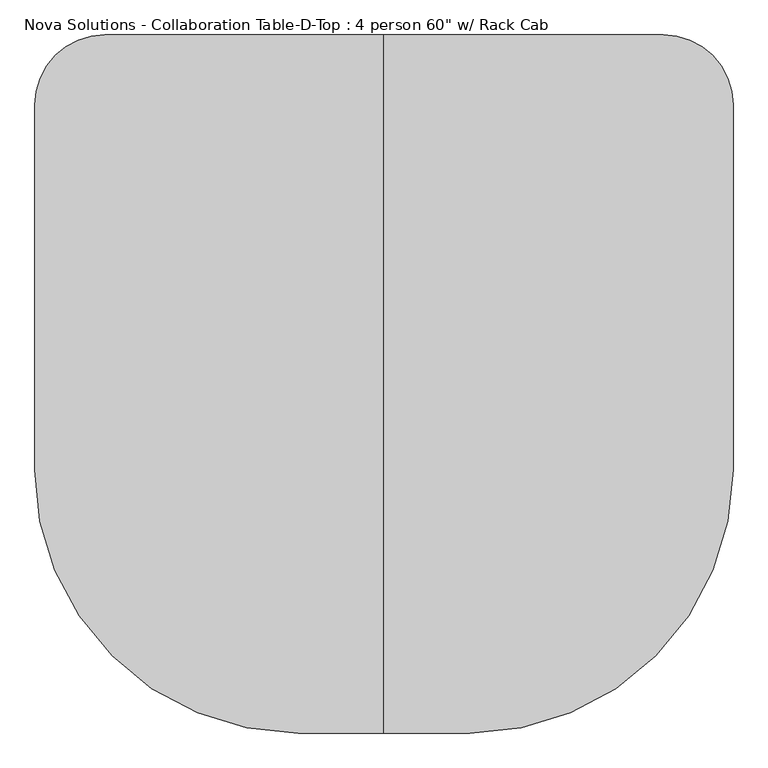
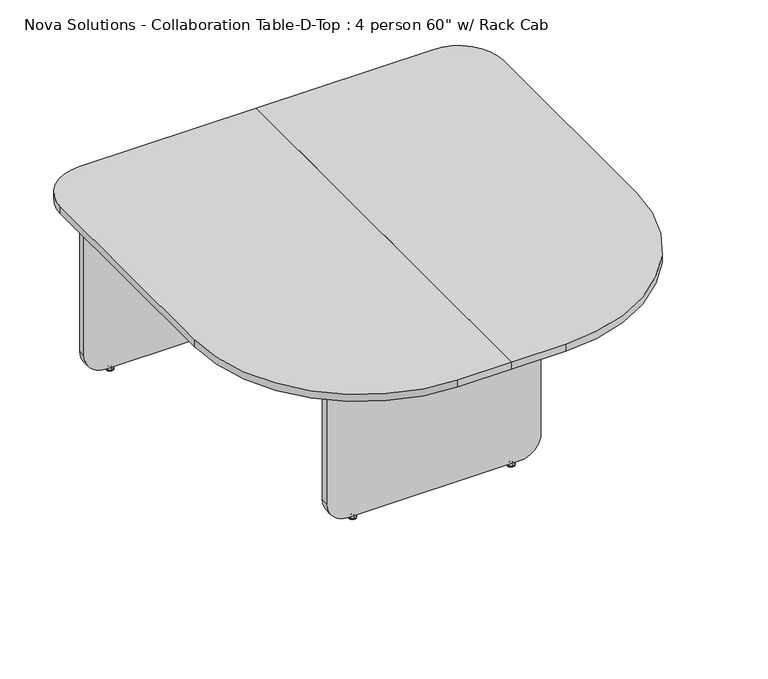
"""IFC4 building model written with IfcOpenShell, lengths in millimetres: furniture geometry."""

import ifcopenshell
import ifcopenshell.guid

model = None  # the IFC model being written
_history = None  # IfcOwnerHistory: only IFC2X3 demands one
_inside = {}  # id of a spatial element -> (the spatial element, [elements in it])
_under = {}  # id of a project, library or spatial element -> (it, [spatial elements below it])
_declared = {}  # id of a project -> (the project, [libraries it declares])
_typed = {}  # id of a type object -> (the type object, [elements of that type])
_made_of = {}  # id of a material, layer set ... -> (it, [elements and type objects made of it])


def new_model(schema):
    """Start an empty IFC model of exactly this schema.

    Asked for "IFC4X3", IfcOpenShell would pick the latest addendum, in which some entities
    have other attributes; the version numbers below select the first issue.
    IFC2X3 requires an IfcOwnerHistory on every rooted entity: one is made here for all.
    """
    global model, _history
    if schema == "IFC4X3":
        model = ifcopenshell.file(schema_version=(4, 3, 0, 0))
    else:
        model = ifcopenshell.file(schema=schema)
    _inside.clear()
    _under.clear()
    _declared.clear()
    _typed.clear()
    _made_of.clear()
    _history = None
    if model.schema == "IFC2X3":
        org = make("IfcOrganization", Name="unknown")
        user = make(
            "IfcPersonAndOrganization",
            ThePerson=make("IfcPerson", FamilyName="unknown"),
            TheOrganization=org,
        )
        app = make(
            "IfcApplication",
            ApplicationDeveloper=org,
            Version="unknown",
            ApplicationFullName="unknown",
            ApplicationIdentifier="unknown",
        )
        _history = make(
            "IfcOwnerHistory",
            OwningUser=user,
            OwningApplication=app,
            ChangeAction="ADDED",
            CreationDate=0,
        )
    return model


def make(cls, **values):
    """One entity of the class cls with the attributes given. An attribute that is None is left unset."""
    return model.create_entity(
        cls, **{name: value for name, value in values.items() if value is not None}
    )


def rooted(cls, **values):
    """An entity with a GlobalId (a new one), such as an element, a storey or a relation."""
    return make(cls, GlobalId=ifcopenshell.guid.new(), OwnerHistory=_history, **values)


def si_unit(unit_type, name, prefix=None):
    """IfcSIUnit, for example si_unit("LENGTHUNIT", "METRE", prefix="MILLI")."""
    return make("IfcSIUnit", UnitType=unit_type, Prefix=prefix, Name=name)


def assignment(units):
    """IfcUnitAssignment: the units of a project."""
    return None if units is None else make("IfcUnitAssignment", Units=units)


def point(xyz):
    """IfcCartesianPoint."""
    return None if xyz is None else make("IfcCartesianPoint", Coordinates=xyz)


def direction(xyz):
    """IfcDirection."""
    return None if xyz is None else make("IfcDirection", DirectionRatios=xyz)


def frame(location, z_axis=None, x_axis=None):
    """IfcAxis2Placement3D, a coordinate frame: its origin and axes. An axis left out is left unset."""
    return make(
        "IfcAxis2Placement3D",
        Location=point(location),
        Axis=direction(z_axis),
        RefDirection=direction(x_axis),
    )


def frame_2d(location, x_axis=None):
    """IfcAxis2Placement2D, a coordinate frame in the plane: its origin and x axis."""
    return make(
        "IfcAxis2Placement2D", Location=point(location), RefDirection=direction(x_axis)
    )


def origin():
    """The frame at (0, 0, 0) with its axes left unset."""
    return frame((0.0, 0.0, 0.0))


def place(relative_to, where):
    """IfcLocalPlacement: puts the frame where relative to a parent placement (None: the world)."""
    return make(
        "IfcLocalPlacement", PlacementRelTo=relative_to, RelativePlacement=where
    )


def context(
    kind, dimensions, precision=None, world=None, true_north=None, identifier=None
):
    """IfcGeometricRepresentationContext, for example the 3D "Model" context."""
    return make(
        "IfcGeometricRepresentationContext",
        ContextIdentifier=identifier,
        ContextType=kind,
        CoordinateSpaceDimension=dimensions,
        Precision=precision,
        WorldCoordinateSystem=world,
        TrueNorth=true_north,
    )


def project(units=None, contexts=None):
    """IfcProject with its units and contexts."""
    return rooted(
        "IfcProject",
        Name="project",
        RepresentationContexts=contexts,
        UnitsInContext=assignment(units),
    )


def spatial(cls, under=None, at=None, **own):
    """A site, building, storey or space (cls), placed at a placement, below another one or the project."""
    s = rooted(cls, ObjectPlacement=at, **own)
    if under is not None:
        _under.setdefault(under.id(), (under, []))[1].append(s)
    return s


def polyline(points):
    """IfcPolyline through the points."""
    return make("IfcPolyline", Points=[point(p) for p in points])


def circle_curve(where, radius):
    """IfcCircle in the frame where."""
    return make("IfcCircle", Position=where, Radius=radius)


def ellipse_curve(where, semi_axis1, semi_axis2):
    """IfcEllipse in the frame where."""
    return make(
        "IfcEllipse", Position=where, SemiAxis1=semi_axis1, SemiAxis2=semi_axis2
    )


def trimmed(basis, trim1, trim2, sense, master):
    """IfcTrimmedCurve: the piece of a basis curve between two trims."""
    return make(
        "IfcTrimmedCurve",
        BasisCurve=basis,
        Trim1=trim1,
        Trim2=trim2,
        SenseAgreement=sense,
        MasterRepresentation=master,
    )


def segment(curve, same_sense, transition):
    """IfcCompositeCurveSegment."""
    return make(
        "IfcCompositeCurveSegment",
        Transition=transition,
        SameSense=same_sense,
        ParentCurve=curve,
    )


def composite_curve(segments, self_intersect=None):
    """IfcCompositeCurve: segments joined end to end."""
    return make("IfcCompositeCurve", Segments=segments, SelfIntersect=self_intersect)


def outline(outer, holes=None, kind="AREA"):
    """IfcArbitraryClosedProfileDef: a profile drawn as a closed curve; with holes, ...WithVoids."""
    if holes is None:
        return make("IfcArbitraryClosedProfileDef", ProfileType=kind, OuterCurve=outer)
    return make(
        "IfcArbitraryProfileDefWithVoids",
        ProfileType=kind,
        OuterCurve=outer,
        InnerCurves=holes,
    )


def extrude(swept, where, along, depth):
    """IfcExtrudedAreaSolid: the profile swept, set in the frame where, extruded along a direction by depth."""
    return make(
        "IfcExtrudedAreaSolid",
        SweptArea=swept,
        Position=where,
        ExtrudedDirection=direction(along),
        Depth=depth,
    )


def shape(context_of_items, identifier, shape_type, items):
    """IfcShapeRepresentation: the items that make up one representation, for example the "Body"."""
    return make(
        "IfcShapeRepresentation",
        ContextOfItems=context_of_items,
        RepresentationIdentifier=identifier,
        RepresentationType=shape_type,
        Items=items,
    )


def source(mapping_origin, context_of_items, identifier, shape_type, items):
    """IfcRepresentationMap: a shape defined once, which mapped items show again and again."""
    return make(
        "IfcRepresentationMap",
        MappingOrigin=mapping_origin,
        MappedRepresentation=shape(context_of_items, identifier, shape_type, items),
    )


def transform(
    local_origin,
    x_axis=None,
    y_axis=None,
    z_axis=None,
    scale=None,
    scale2=None,
    scale3=None,
    uniform=True,
):
    """IfcCartesianTransformationOperator3D, or its non-uniform kind. x_axis, y_axis, z_axis: its Axis1, 2, 3."""
    if uniform:
        return make(
            "IfcCartesianTransformationOperator3D",
            Axis1=direction(x_axis),
            Axis2=direction(y_axis),
            LocalOrigin=point(local_origin),
            Scale=scale,
            Axis3=direction(z_axis),
        )
    return make(
        "IfcCartesianTransformationOperator3DnonUniform",
        Axis1=direction(x_axis),
        Axis2=direction(y_axis),
        LocalOrigin=point(local_origin),
        Scale=scale,
        Axis3=direction(z_axis),
        Scale2=scale2,
        Scale3=scale3,
    )


def mapped(mapping_source, mapping_target):
    """IfcMappedItem: shows the shape of a source again, moved by a transform."""
    return make(
        "IfcMappedItem", MappingSource=mapping_source, MappingTarget=mapping_target
    )


def made_of(thing, what):
    """Note that an element or type object is made of a material, layer set ...; save() writes the relation."""
    if what is not None:
        _made_of.setdefault(what.id(), (what, []))[1].append(thing)
    return thing


def element(
    cls,
    number,
    at=None,
    inside=None,
    cuts=None,
    type_object=None,
    material=None,
    context=None,
    identifier="Body",
    shape_type=None,
    held_by="IfcProductDefinitionShape",
    body=None,
    shapes=None,
    **own,
):
    """One element of the class cls, such as IfcWall. Its Tag is "e" and its number.

    at: its placement. inside: the storey or other place that contains it. cuts: it is an
    opening in that element (IfcRelVoidsElement). A single representation is given by context,
    identifier, shape_type and body (its items); several are given by shapes. held_by: the class
    of the entity that holds the representations. save() writes the other relations.
    """
    e = rooted(cls, Tag="e%d" % number, ObjectPlacement=at, **own)
    if body is not None:
        shapes = [shape(context, identifier, shape_type, body)]
    if shapes is not None:
        e.Representation = make(held_by, Representations=shapes)
    if inside is not None:
        _inside.setdefault(inside.id(), (inside, []))[1].append(e)
    if cuts is not None:
        rooted(
            "IfcRelVoidsElement", RelatingBuildingElement=cuts, RelatedOpeningElement=e
        )
    if type_object is not None:
        _typed.setdefault(type_object.id(), (type_object, []))[1].append(e)
    return made_of(e, material)


def aggregate(whole, parts):
    """IfcRelAggregates: a whole, such as a stair, and the parts it consists of."""
    return rooted("IfcRelAggregates", RelatingObject=whole, RelatedObjects=parts)


def save(model, path):
    """Write the relations noted so far, then the file.

    IfcRelAggregates (storeys below a building ...), IfcRelContainedInSpatialStructure (elements
    in a storey), IfcRelDefinesByType, IfcRelAssociatesMaterial and IfcRelDeclares: one each for
    every whole, place, type object, material and project.
    """
    for whole, parts in _under.values():
        aggregate(whole, parts)
    for where, things in _inside.values():
        rooted(
            "IfcRelContainedInSpatialStructure",
            RelatedElements=things,
            RelatingStructure=where,
        )
    for kind, things in _typed.values():
        rooted("IfcRelDefinesByType", RelatedObjects=things, RelatingType=kind)
    for what, things in _made_of.values():
        rooted("IfcRelAssociatesMaterial", RelatedObjects=things, RelatingMaterial=what)
    for by, libraries in _declared.values():
        rooted("IfcRelDeclares", RelatingContext=by, RelatedDefinitions=libraries)
    model.write(path)


def plane_surface(at):
    """IfcPlane: the flat surface through the origin of the frame at, square to its z axis."""
    return make("IfcPlane", Position=at)


def cylinder_surface(at, radius):
    """IfcCylindricalSurface: all points at the distance radius from the z axis of the frame at."""
    return make("IfcCylindricalSurface", Position=at, Radius=radius)


def revolved_surface(curve, axis_point, axis_direction):
    """IfcSurfaceOfRevolution: the curve turned about the line through axis_point along axis_direction."""
    return make(
        "IfcSurfaceOfRevolution",
        SweptCurve=make("IfcArbitraryOpenProfileDef", ProfileType="CURVE", Curve=curve),
        AxisPosition=make("IfcAxis1Placement", Location=point(axis_point), Axis=direction(axis_direction)),
    )


def advanced_brep(points, edges, surfaces, faces):
    """IfcAdvancedBrep: a solid bounded by faces that lie on surfaces and meet in shared edges.

    An edge is (start, end): straight between two places in points (the first is 0);
    or (start, end, curve); or (start, end, curve, False) where it runs against its curve.
    A face is (place in surfaces, loops), or (place, loops, False) where it looks against
    its surface's normal. A loop lists edges by number (the first is 1), with a minus sign
    where the edge is run from its end to its start. The first loop is the outer one.
    """
    corners = [point(p) for p in points]
    vertices = [make("IfcVertexPoint", VertexGeometry=c) for c in corners]
    made = []
    for start, end, *more in edges:
        made.append(
            make(
                "IfcEdgeCurve",
                EdgeStart=vertices[start],
                EdgeEnd=vertices[end],
                EdgeGeometry=more[0] if more else make("IfcPolyline", Points=[corners[start], corners[end]]),
                SameSense=more[1] if len(more) > 1 else True,
            )
        )
    hull = []
    for where, loops, *sense in faces:
        bounds = []
        for j, loop in enumerate(loops):
            ring = [make("IfcOrientedEdge", EdgeElement=made[abs(k) - 1], Orientation=k > 0) for k in loop]
            bounds.append(
                make(
                    "IfcFaceOuterBound" if j == 0 else "IfcFaceBound",
                    Bound=make("IfcEdgeLoop", EdgeList=ring),
                    Orientation=True,
                )
            )
        hull.append(make("IfcAdvancedFace", Bounds=bounds, FaceSurface=surfaces[where], SameSense=sense[0] if sense else True))
    return make("IfcAdvancedBrep", Outer=make("IfcClosedShell", CfsFaces=hull))


def furniture_7cc7d4da(model_context):
    return source(origin(), model_context, "Body", "SolidModel", [
        extrude(outline(polyline([(-261.75, 733.4), (-245.55, 733.4), (-245.55, 206.0), (-261.75, 206.0), (-261.75, 733.4)])), frame((0.0, 0.0, 181.85), z_axis=(0.0, 0.0, 1.0), x_axis=(1.0, 0.0, 0.0)), (0.0, 0.0, 1.0), 553.0),
        extrude(outline(polyline([(245.55, 733.4), (261.75, 733.4), (261.75, 206.0), (245.55, 206.0), (245.55, 733.4)])), frame((0.0, 0.0, 181.85), z_axis=(0.0, 0.0, 1.0), x_axis=(1.0, 0.0, 0.0)), (0.0, 0.0, 1.0), 553.0),
        extrude(outline(polyline([(-136.57, 180.3), (-136.57, -271.3), (-152.77, -271.3), (-152.77, 180.3), (-136.57, 180.3)])), frame((0.0, 0.0, 181.85), z_axis=(0.0, 0.0, 1.0), x_axis=(1.0, 0.0, 0.0)), (0.0, 0.0, 1.0), 553.0),
        extrude(outline(polyline([(136.57, 180.3), (152.77, 180.3), (152.77, -271.3), (136.57, -271.3), (136.57, 180.3)])), frame((0.0, 0.0, 181.85), z_axis=(0.0, 0.0, 1.0), x_axis=(1.0, 0.0, 0.0)), (0.0, 0.0, 1.0), 553.0),
        advanced_brep(
        [(513.4578125, 752.9276506, 11.1125), (513.4578125, 739.5723494, 11.1125), (513.4578125, 746.25, 11.1125), (513.4578125, 752.9276506, 9.525), (513.4578125, 739.5723494, 9.525), (513.4578125, 758.1355135, 4.7748687), (513.4578125, 734.3644865, 4.7748687), (513.4578125, 758.9966506, 3.989419), (513.4578125, 733.5033494, 3.989419), (513.4578125, 758.9966506, 3.175), (513.4578125, 733.5033494, 3.175), (513.4578125, 758.1459119, 0.0), (513.4578125, 734.3540881, 0.0), (513.4578125, 746.25, 0.0)],
        [
            (0, 1, circle_curve(frame((513.4578125, 746.25, 11.1125), z_axis=(0.0, 0.0, 1.0), x_axis=(0.0, -1.0, 0.0)), 6.6776506)),
            (1, 2),
            (2, 0),
            (1, 0, circle_curve(frame((513.4578125, 746.25, 11.1125), z_axis=(0.0, 0.0, 1.0), x_axis=(0.0, -1.0, 0.0)), 6.6776506)),
            (3, 4, circle_curve(frame((513.4578125, 746.25, 9.525), z_axis=(0.0, 0.0, 1.0), x_axis=(0.0, -1.0, 0.0)), 6.6776506)),
            (4, 1),
            (0, 3),
            (4, 3, circle_curve(frame((513.4578125, 746.25, 9.525), z_axis=(0.0, 0.0, 1.0), x_axis=(0.0, -1.0, 0.0)), 6.6776506)),
            (5, 6, circle_curve(frame((513.4578125, 746.25, 4.7748687), z_axis=(0.0, 0.0, 1.0), x_axis=(0.0, -1.0, 0.0)), 11.8855135)),
            (6, 4, circle_curve(frame((513.4578125, 733.3179373, 11.1521822), z_axis=(1.0, 0.0, 0.0), x_axis=(0.0, 1.0, 0.0)), 6.462615)),
            (3, 5, circle_curve(frame((513.4578125, 759.1820627, 11.1521822), z_axis=(1.0, 0.0, 0.0), x_axis=(0.0, -1.0, 0.0)), 6.462615)),
            (6, 5, circle_curve(frame((513.4578125, 746.25, 4.7748687), z_axis=(0.0, 0.0, 1.0), x_axis=(0.0, -1.0, 0.0)), 11.8855135)),
            (7, 8, circle_curve(frame((513.4578125, 746.25, 3.989419), z_axis=(0.0, 0.0, 1.0), x_axis=(0.0, -1.0, 0.0)), 12.7466506)),
            (8, 6, circle_curve(frame((513.4578125, 734.5375368, 3.7203591), z_axis=(-1.0, 0.0, 0.0), x_axis=(0.0, 1.0, 0.0)), 1.0686145)),
            (5, 7, circle_curve(frame((513.4578125, 757.9624632, 3.7203591), z_axis=(-1.0, 0.0, 0.0), x_axis=(0.0, -1.0, 0.0)), 1.0686145)),
            (8, 7, circle_curve(frame((513.4578125, 746.25, 3.989419), z_axis=(0.0, 0.0, 1.0), x_axis=(0.0, -1.0, 0.0)), 12.7466506)),
            (9, 10, circle_curve(frame((513.4578125, 746.25, 3.175), z_axis=(0.0, 0.0, 1.0), x_axis=(0.0, -1.0, 0.0)), 12.7466506)),
            (10, 8),
            (7, 9),
            (10, 9, circle_curve(frame((513.4578125, 746.25, 3.175), z_axis=(0.0, 0.0, 1.0), x_axis=(0.0, -1.0, 0.0)), 12.7466506)),
            (11, 12, circle_curve(frame((513.4578125, 746.25, 0.0), z_axis=(0.0, 0.0, 1.0), x_axis=(0.0, -1.0, 0.0)), 11.8959119)),
            (12, 10),
            (9, 11),
            (12, 11, circle_curve(frame((513.4578125, 746.25, 0.0), z_axis=(0.0, 0.0, 1.0), x_axis=(0.0, -1.0, 0.0)), 11.8959119)),
            (13, 12),
            (11, 13),
        ],
        [
            plane_surface(frame((513.4578125, 746.25, 11.1125), z_axis=(0.0, 0.0, 1.0), x_axis=(0.0, -1.0, 0.0))),
            cylinder_surface(frame((513.4578125, 746.25, 43.2095994), z_axis=(0.0, 0.0, -1.0), x_axis=(0.0, -1.0, 0.0)), 6.6776506),
            revolved_surface(trimmed(ellipse_curve(frame((513.4578125, 733.3179373, 11.1521822), z_axis=(-1.0, 0.0, 0.0), x_axis=(0.0, 1.0, 0.0)), 6.462615, 6.462615), [point((513.4578125, 739.5723494, 9.525))], [point((513.4578125, 734.3644865, 4.7748687))], True, "CARTESIAN"), (513.4578125, 746.25, 43.2095994), (0.0, 0.0, -1.0)),
            revolved_surface(trimmed(ellipse_curve(frame((513.4578125, 734.5375368, 3.7203591), z_axis=(1.0, 0.0, 0.0), x_axis=(0.0, 1.0, 0.0)), 1.0686145, 1.0686145), [point((513.4578125, 734.3644865, 4.7748687))], [point((513.4578125, 733.5033494, 3.989419))], True, "CARTESIAN"), (513.4578125, 746.25, 43.2095994), (0.0, 0.0, -1.0)),
            cylinder_surface(frame((513.4578125, 746.25, 43.2095994), z_axis=(0.0, 0.0, -1.0), x_axis=(0.0, -1.0, 0.0)), 12.7466506),
            revolved_surface(polyline([(513.4578125, 733.5033494, 3.175), (513.4578125, 734.3540881, 0.0)]), (513.4578125, 746.25, 43.2095994), (0.0, 0.0, -1.0)),
            plane_surface(frame((513.4578125, 746.25, 0.0), z_axis=(0.0, 0.0, -1.0), x_axis=(0.0, -1.0, 0.0))),
        ],
        [
            (0, [[1, 2, 3]]),
            (0, [[4, -3, -2]]),
            (1, [[5, 6, -1, 7]]),
            (1, [[8, -7, -4, -6]]),
            (2, [[9, 10, -5, 11]]),
            (2, [[12, -11, -8, -10]]),
            (3, [[13, 14, -9, 15]]),
            (3, [[16, -15, -12, -14]]),
            (4, [[17, 18, -13, 19]]),
            (4, [[20, -19, -16, -18]]),
            (5, [[21, 22, -17, 23]]),
            (5, [[24, -23, -20, -22]]),
            (6, [[25, -21, 26]]),
            (6, [[-26, -24, -25]]),
        ],
    ),
        advanced_brep(
        [(-513.4578125, 752.9276506, 11.1125), (-513.4578125, 739.5723494, 11.1125), (-513.4578125, 746.25, 11.1125), (-513.4578125, 752.9276506, 9.525), (-513.4578125, 739.5723494, 9.525), (-513.4578125, 758.1355135, 4.7748687), (-513.4578125, 734.3644865, 4.7748687), (-513.4578125, 758.9966506, 3.989419), (-513.4578125, 733.5033494, 3.989419), (-513.4578125, 758.9966506, 3.175), (-513.4578125, 733.5033494, 3.175), (-513.4578125, 758.1459119, 0.0), (-513.4578125, 734.3540881, 0.0), (-513.4578125, 746.25, 0.0)],
        [
            (0, 1, circle_curve(frame((-513.4578125, 746.25, 11.1125), z_axis=(0.0, 0.0, 1.0), x_axis=(0.0, -1.0, 0.0)), 6.6776506)),
            (1, 2),
            (2, 0),
            (1, 0, circle_curve(frame((-513.4578125, 746.25, 11.1125), z_axis=(0.0, 0.0, 1.0), x_axis=(0.0, -1.0, 0.0)), 6.6776506)),
            (3, 4, circle_curve(frame((-513.4578125, 746.25, 9.525), z_axis=(0.0, 0.0, 1.0), x_axis=(0.0, -1.0, 0.0)), 6.6776506)),
            (4, 1),
            (0, 3),
            (4, 3, circle_curve(frame((-513.4578125, 746.25, 9.525), z_axis=(0.0, 0.0, 1.0), x_axis=(0.0, -1.0, 0.0)), 6.6776506)),
            (5, 6, circle_curve(frame((-513.4578125, 746.25, 4.7748687), z_axis=(0.0, 0.0, 1.0), x_axis=(0.0, -1.0, 0.0)), 11.8855135)),
            (6, 4, circle_curve(frame((-513.4578125, 733.3179373, 11.1521822), z_axis=(1.0, 0.0, 0.0), x_axis=(0.0, 1.0, 0.0)), 6.462615)),
            (3, 5, circle_curve(frame((-513.4578125, 759.1820627, 11.1521822), z_axis=(1.0, 0.0, 0.0), x_axis=(0.0, -1.0, 0.0)), 6.462615)),
            (6, 5, circle_curve(frame((-513.4578125, 746.25, 4.7748687), z_axis=(0.0, 0.0, 1.0), x_axis=(0.0, -1.0, 0.0)), 11.8855135)),
            (7, 8, circle_curve(frame((-513.4578125, 746.25, 3.989419), z_axis=(0.0, 0.0, 1.0), x_axis=(0.0, -1.0, 0.0)), 12.7466506)),
            (8, 6, circle_curve(frame((-513.4578125, 734.5375368, 3.7203591), z_axis=(-1.0, 0.0, 0.0), x_axis=(0.0, 1.0, 0.0)), 1.0686145)),
            (5, 7, circle_curve(frame((-513.4578125, 757.9624632, 3.7203591), z_axis=(-1.0, 0.0, 0.0), x_axis=(0.0, -1.0, 0.0)), 1.0686145)),
            (8, 7, circle_curve(frame((-513.4578125, 746.25, 3.989419), z_axis=(0.0, 0.0, 1.0), x_axis=(0.0, -1.0, 0.0)), 12.7466506)),
            (9, 10, circle_curve(frame((-513.4578125, 746.25, 3.175), z_axis=(0.0, 0.0, 1.0), x_axis=(0.0, -1.0, 0.0)), 12.7466506)),
            (10, 8),
            (7, 9),
            (10, 9, circle_curve(frame((-513.4578125, 746.25, 3.175), z_axis=(0.0, 0.0, 1.0), x_axis=(0.0, -1.0, 0.0)), 12.7466506)),
            (11, 12, circle_curve(frame((-513.4578125, 746.25, 0.0), z_axis=(0.0, 0.0, 1.0), x_axis=(0.0, -1.0, 0.0)), 11.8959119)),
            (12, 10),
            (9, 11),
            (12, 11, circle_curve(frame((-513.4578125, 746.25, 0.0), z_axis=(0.0, 0.0, 1.0), x_axis=(0.0, -1.0, 0.0)), 11.8959119)),
            (13, 12),
            (11, 13),
        ],
        [
            plane_surface(frame((-513.4578125, 746.25, 11.1125), z_axis=(0.0, 0.0, 1.0), x_axis=(0.0, -1.0, 0.0))),
            cylinder_surface(frame((-513.4578125, 746.25, 43.2095994), z_axis=(0.0, 0.0, -1.0), x_axis=(0.0, -1.0, 0.0)), 6.6776506),
            revolved_surface(trimmed(ellipse_curve(frame((-513.4578125, 733.3179373, 11.1521822), z_axis=(-1.0, 0.0, 0.0), x_axis=(0.0, 1.0, 0.0)), 6.462615, 6.462615), [point((-513.4578125, 739.5723494, 9.525))], [point((-513.4578125, 734.3644865, 4.7748687))], True, "CARTESIAN"), (-513.4578125, 746.25, 43.2095994), (0.0, 0.0, -1.0)),
            revolved_surface(trimmed(ellipse_curve(frame((-513.4578125, 734.5375368, 3.7203591), z_axis=(1.0, 0.0, 0.0), x_axis=(0.0, 1.0, 0.0)), 1.0686145, 1.0686145), [point((-513.4578125, 734.3644865, 4.7748687))], [point((-513.4578125, 733.5033494, 3.989419))], True, "CARTESIAN"), (-513.4578125, 746.25, 43.2095994), (0.0, 0.0, -1.0)),
            cylinder_surface(frame((-513.4578125, 746.25, 43.2095994), z_axis=(0.0, 0.0, -1.0), x_axis=(0.0, -1.0, 0.0)), 12.7466506),
            revolved_surface(polyline([(-513.4578125, 733.5033494, 3.175), (-513.4578125, 734.3540881, 0.0)]), (-513.4578125, 746.25, 43.2095994), (0.0, 0.0, -1.0)),
            plane_surface(frame((-513.4578125, 746.25, 0.0), z_axis=(0.0, 0.0, -1.0), x_axis=(0.0, -1.0, 0.0))),
        ],
        [
            (0, [[1, 2, 3]]),
            (0, [[4, -3, -2]]),
            (1, [[5, 6, -1, 7]]),
            (1, [[8, -7, -4, -6]]),
            (2, [[9, 10, -5, 11]]),
            (2, [[12, -11, -8, -10]]),
            (3, [[13, 14, -9, 15]]),
            (3, [[16, -15, -12, -14]]),
            (4, [[17, 18, -13, 19]]),
            (4, [[20, -19, -16, -18]]),
            (5, [[21, 22, -17, 23]]),
            (5, [[24, -23, -20, -22]]),
            (6, [[25, -21, 26]]),
            (6, [[-26, -24, -25]]),
        ],
    ),
        extrude(outline(composite_curve([segment(polyline([(734.85, 609.5), (734.85, -609.5), (90.15, -609.5)]), True, "CONTINUOUS"), segment(trimmed(circle_curve(frame_2d((90.15, -533.5)), 76.0), [point((90.15, -609.5))], [point((14.15, -533.5))], False, "CARTESIAN"), True, "CONTINUOUS"), segment(polyline([(14.15, -533.5), (14.15, 533.5)]), True, "CONTINUOUS"), segment(trimmed(circle_curve(frame_2d((90.15, 533.5)), 76.0), [point((14.15, 533.5))], [point((90.15, 609.5))], False, "CARTESIAN"), True, "CONTINUOUS"), segment(polyline([(90.15, 609.5), (734.85, 609.5)]), True, "CONTINUOUS")], self_intersect=False)), frame((0.0, 733.4, 0.0), z_axis=(0.0, 1.0, 0.0), x_axis=(0.0, 0.0, 1.0)), (0.0, 0.0, 1.0), 25.7),
        advanced_brep(
        [(272.9578125, -277.4723494, 11.1125), (272.9578125, -290.8276506, 11.1125), (272.9578125, -284.15, 11.1125), (272.9578125, -277.4723494, 9.525), (272.9578125, -290.8276506, 9.525), (272.9578125, -272.2644865, 4.7748687), (272.9578125, -296.0355135, 4.7748687), (272.9578125, -271.4033494, 3.989419), (272.9578125, -296.8966506, 3.989419), (272.9578125, -271.4033494, 3.175), (272.9578125, -296.8966506, 3.175), (272.9578125, -272.2540881, 0.0), (272.9578125, -296.0459119, 0.0), (272.9578125, -284.15, 0.0)],
        [
            (0, 1, circle_curve(frame((272.9578125, -284.15, 11.1125), z_axis=(0.0, 0.0, 1.0), x_axis=(0.0, -1.0, 0.0)), 6.6776506)),
            (1, 2),
            (2, 0),
            (1, 0, circle_curve(frame((272.9578125, -284.15, 11.1125), z_axis=(0.0, 0.0, 1.0), x_axis=(0.0, -1.0, 0.0)), 6.6776506)),
            (3, 4, circle_curve(frame((272.9578125, -284.15, 9.525), z_axis=(0.0, 0.0, 1.0), x_axis=(0.0, -1.0, 0.0)), 6.6776506)),
            (4, 1),
            (0, 3),
            (4, 3, circle_curve(frame((272.9578125, -284.15, 9.525), z_axis=(0.0, 0.0, 1.0), x_axis=(0.0, -1.0, 0.0)), 6.6776506)),
            (5, 6, circle_curve(frame((272.9578125, -284.15, 4.7748687), z_axis=(0.0, 0.0, 1.0), x_axis=(0.0, -1.0, 0.0)), 11.8855135)),
            (6, 4, circle_curve(frame((272.9578125, -297.0820627, 11.1521822), z_axis=(1.0, 0.0, 0.0), x_axis=(0.0, 1.0, 0.0)), 6.462615)),
            (3, 5, circle_curve(frame((272.9578125, -271.2179373, 11.1521822), z_axis=(1.0, 0.0, 0.0), x_axis=(0.0, -1.0, 0.0)), 6.462615)),
            (6, 5, circle_curve(frame((272.9578125, -284.15, 4.7748687), z_axis=(0.0, 0.0, 1.0), x_axis=(0.0, -1.0, 0.0)), 11.8855135)),
            (7, 8, circle_curve(frame((272.9578125, -284.15, 3.989419), z_axis=(0.0, 0.0, 1.0), x_axis=(0.0, -1.0, 0.0)), 12.7466506)),
            (8, 6, circle_curve(frame((272.9578125, -295.8624632, 3.7203591), z_axis=(-1.0, 0.0, 0.0), x_axis=(0.0, 1.0, 0.0)), 1.0686145)),
            (5, 7, circle_curve(frame((272.9578125, -272.4375368, 3.7203591), z_axis=(-1.0, 0.0, 0.0), x_axis=(0.0, -1.0, 0.0)), 1.0686145)),
            (8, 7, circle_curve(frame((272.9578125, -284.15, 3.989419), z_axis=(0.0, 0.0, 1.0), x_axis=(0.0, -1.0, 0.0)), 12.7466506)),
            (9, 10, circle_curve(frame((272.9578125, -284.15, 3.175), z_axis=(0.0, 0.0, 1.0), x_axis=(0.0, -1.0, 0.0)), 12.7466506)),
            (10, 8),
            (7, 9),
            (10, 9, circle_curve(frame((272.9578125, -284.15, 3.175), z_axis=(0.0, 0.0, 1.0), x_axis=(0.0, -1.0, 0.0)), 12.7466506)),
            (11, 12, circle_curve(frame((272.9578125, -284.15, 0.0), z_axis=(0.0, 0.0, 1.0), x_axis=(0.0, -1.0, 0.0)), 11.8959119)),
            (12, 10),
            (9, 11),
            (12, 11, circle_curve(frame((272.9578125, -284.15, 0.0), z_axis=(0.0, 0.0, 1.0), x_axis=(0.0, -1.0, 0.0)), 11.8959119)),
            (13, 12),
            (11, 13),
        ],
        [
            plane_surface(frame((272.9578125, -284.15, 11.1125), z_axis=(0.0, 0.0, 1.0), x_axis=(0.0, -1.0, 0.0))),
            cylinder_surface(frame((272.9578125, -284.15, 43.2095994), z_axis=(0.0, 0.0, -1.0), x_axis=(0.0, -1.0, 0.0)), 6.6776506),
            revolved_surface(trimmed(ellipse_curve(frame((272.9578125, -297.0820627, 11.1521822), z_axis=(-1.0, 0.0, 0.0), x_axis=(0.0, 1.0, 0.0)), 6.462615, 6.462615), [point((272.9578125, -290.8276506, 9.525))], [point((272.9578125, -296.0355135, 4.7748687))], True, "CARTESIAN"), (272.9578125, -284.15, 43.2095994), (0.0, 0.0, -1.0)),
            revolved_surface(trimmed(ellipse_curve(frame((272.9578125, -295.8624632, 3.7203591), z_axis=(1.0, 0.0, 0.0), x_axis=(0.0, 1.0, 0.0)), 1.0686145, 1.0686145), [point((272.9578125, -296.0355135, 4.7748687))], [point((272.9578125, -296.8966506, 3.989419))], True, "CARTESIAN"), (272.9578125, -284.15, 43.2095994), (0.0, 0.0, -1.0)),
            cylinder_surface(frame((272.9578125, -284.15, 43.2095994), z_axis=(0.0, 0.0, -1.0), x_axis=(0.0, -1.0, 0.0)), 12.7466506),
            revolved_surface(polyline([(272.9578125, -296.8966506, 3.175), (272.9578125, -296.0459119, 0.0)]), (272.9578125, -284.15, 43.2095994), (0.0, 0.0, -1.0)),
            plane_surface(frame((272.9578125, -284.15, 0.0), z_axis=(0.0, 0.0, -1.0), x_axis=(0.0, -1.0, 0.0))),
        ],
        [
            (0, [[1, 2, 3]]),
            (0, [[4, -3, -2]]),
            (1, [[5, 6, -1, 7]]),
            (1, [[8, -7, -4, -6]]),
            (2, [[9, 10, -5, 11]]),
            (2, [[12, -11, -8, -10]]),
            (3, [[13, 14, -9, 15]]),
            (3, [[16, -15, -12, -14]]),
            (4, [[17, 18, -13, 19]]),
            (4, [[20, -19, -16, -18]]),
            (5, [[21, 22, -17, 23]]),
            (5, [[24, -23, -20, -22]]),
            (6, [[25, -21, 26]]),
            (6, [[-26, -24, -25]]),
        ],
    ),
        advanced_brep(
        [(-272.9578125, -277.4723494, 11.1125), (-272.9578125, -290.8276506, 11.1125), (-272.9578125, -284.15, 11.1125), (-272.9578125, -277.4723494, 9.525), (-272.9578125, -290.8276506, 9.525), (-272.9578125, -272.2644865, 4.7748687), (-272.9578125, -296.0355135, 4.7748687), (-272.9578125, -271.4033494, 3.989419), (-272.9578125, -296.8966506, 3.989419), (-272.9578125, -271.4033494, 3.175), (-272.9578125, -296.8966506, 3.175), (-272.9578125, -272.2540881, 0.0), (-272.9578125, -296.0459119, 0.0), (-272.9578125, -284.15, 0.0)],
        [
            (0, 1, circle_curve(frame((-272.9578125, -284.15, 11.1125), z_axis=(0.0, 0.0, 1.0), x_axis=(0.0, -1.0, 0.0)), 6.6776506)),
            (1, 2),
            (2, 0),
            (1, 0, circle_curve(frame((-272.9578125, -284.15, 11.1125), z_axis=(0.0, 0.0, 1.0), x_axis=(0.0, -1.0, 0.0)), 6.6776506)),
            (3, 4, circle_curve(frame((-272.9578125, -284.15, 9.525), z_axis=(0.0, 0.0, 1.0), x_axis=(0.0, -1.0, 0.0)), 6.6776506)),
            (4, 1),
            (0, 3),
            (4, 3, circle_curve(frame((-272.9578125, -284.15, 9.525), z_axis=(0.0, 0.0, 1.0), x_axis=(0.0, -1.0, 0.0)), 6.6776506)),
            (5, 6, circle_curve(frame((-272.9578125, -284.15, 4.7748687), z_axis=(0.0, 0.0, 1.0), x_axis=(0.0, -1.0, 0.0)), 11.8855135)),
            (6, 4, circle_curve(frame((-272.9578125, -297.0820627, 11.1521822), z_axis=(1.0, 0.0, 0.0), x_axis=(0.0, 1.0, 0.0)), 6.462615)),
            (3, 5, circle_curve(frame((-272.9578125, -271.2179373, 11.1521822), z_axis=(1.0, 0.0, 0.0), x_axis=(0.0, -1.0, 0.0)), 6.462615)),
            (6, 5, circle_curve(frame((-272.9578125, -284.15, 4.7748687), z_axis=(0.0, 0.0, 1.0), x_axis=(0.0, -1.0, 0.0)), 11.8855135)),
            (7, 8, circle_curve(frame((-272.9578125, -284.15, 3.989419), z_axis=(0.0, 0.0, 1.0), x_axis=(0.0, -1.0, 0.0)), 12.7466506)),
            (8, 6, circle_curve(frame((-272.9578125, -295.8624632, 3.7203591), z_axis=(-1.0, 0.0, 0.0), x_axis=(0.0, 1.0, 0.0)), 1.0686145)),
            (5, 7, circle_curve(frame((-272.9578125, -272.4375368, 3.7203591), z_axis=(-1.0, 0.0, 0.0), x_axis=(0.0, -1.0, 0.0)), 1.0686145)),
            (8, 7, circle_curve(frame((-272.9578125, -284.15, 3.989419), z_axis=(0.0, 0.0, 1.0), x_axis=(0.0, -1.0, 0.0)), 12.7466506)),
            (9, 10, circle_curve(frame((-272.9578125, -284.15, 3.175), z_axis=(0.0, 0.0, 1.0), x_axis=(0.0, -1.0, 0.0)), 12.7466506)),
            (10, 8),
            (7, 9),
            (10, 9, circle_curve(frame((-272.9578125, -284.15, 3.175), z_axis=(0.0, 0.0, 1.0), x_axis=(0.0, -1.0, 0.0)), 12.7466506)),
            (11, 12, circle_curve(frame((-272.9578125, -284.15, 0.0), z_axis=(0.0, 0.0, 1.0), x_axis=(0.0, -1.0, 0.0)), 11.8959119)),
            (12, 10),
            (9, 11),
            (12, 11, circle_curve(frame((-272.9578125, -284.15, 0.0), z_axis=(0.0, 0.0, 1.0), x_axis=(0.0, -1.0, 0.0)), 11.8959119)),
            (13, 12),
            (11, 13),
        ],
        [
            plane_surface(frame((-272.9578125, -284.15, 11.1125), z_axis=(0.0, 0.0, 1.0), x_axis=(0.0, -1.0, 0.0))),
            cylinder_surface(frame((-272.9578125, -284.15, 43.2095994), z_axis=(0.0, 0.0, -1.0), x_axis=(0.0, -1.0, 0.0)), 6.6776506),
            revolved_surface(trimmed(ellipse_curve(frame((-272.9578125, -297.0820627, 11.1521822), z_axis=(-1.0, 0.0, 0.0), x_axis=(0.0, 1.0, 0.0)), 6.462615, 6.462615), [point((-272.9578125, -290.8276506, 9.525))], [point((-272.9578125, -296.0355135, 4.7748687))], True, "CARTESIAN"), (-272.9578125, -284.15, 43.2095994), (0.0, 0.0, -1.0)),
            revolved_surface(trimmed(ellipse_curve(frame((-272.9578125, -295.8624632, 3.7203591), z_axis=(1.0, 0.0, 0.0), x_axis=(0.0, 1.0, 0.0)), 1.0686145, 1.0686145), [point((-272.9578125, -296.0355135, 4.7748687))], [point((-272.9578125, -296.8966506, 3.989419))], True, "CARTESIAN"), (-272.9578125, -284.15, 43.2095994), (0.0, 0.0, -1.0)),
            cylinder_surface(frame((-272.9578125, -284.15, 43.2095994), z_axis=(0.0, 0.0, -1.0), x_axis=(0.0, -1.0, 0.0)), 12.7466506),
            revolved_surface(polyline([(-272.9578125, -296.8966506, 3.175), (-272.9578125, -296.0459119, 0.0)]), (-272.9578125, -284.15, 43.2095994), (0.0, 0.0, -1.0)),
            plane_surface(frame((-272.9578125, -284.15, 0.0), z_axis=(0.0, 0.0, -1.0), x_axis=(0.0, -1.0, 0.0))),
        ],
        [
            (0, [[1, 2, 3]]),
            (0, [[4, -3, -2]]),
            (1, [[5, 6, -1, 7]]),
            (1, [[8, -7, -4, -6]]),
            (2, [[9, 10, -5, 11]]),
            (2, [[12, -11, -8, -10]]),
            (3, [[13, 14, -9, 15]]),
            (3, [[16, -15, -12, -14]]),
            (4, [[17, 18, -13, 19]]),
            (4, [[20, -19, -16, -18]]),
            (5, [[21, 22, -17, 23]]),
            (5, [[24, -23, -20, -22]]),
            (6, [[25, -21, 26]]),
            (6, [[-26, -24, -25]]),
        ],
    ),
        extrude(outline(composite_curve([segment(polyline([(734.85, 369.0), (734.85, -369.0), (90.15, -369.0)]), True, "CONTINUOUS"), segment(trimmed(circle_curve(frame_2d((90.15, -293.0)), 76.0), [point((90.15, -369.0))], [point((14.15, -293.0))], False, "CARTESIAN"), True, "CONTINUOUS"), segment(polyline([(14.15, -293.0), (14.15, 293.0)]), True, "CONTINUOUS"), segment(trimmed(circle_curve(frame_2d((90.15, 293.0)), 76.0), [point((14.15, 293.0))], [point((90.15, 369.0))], False, "CARTESIAN"), True, "CONTINUOUS"), segment(polyline([(90.15, 369.0), (734.85, 369.0)]), True, "CONTINUOUS")], self_intersect=False)), frame((0.0, -297.0, 0.0), z_axis=(0.0, 1.0, 0.0), x_axis=(0.0, 0.0, 1.0)), (0.0, 0.0, 1.0), 25.7),
        extrude(outline(polyline([(-261.75, 206.0), (261.75, 206.0), (261.75, 180.3), (-261.75, 180.3), (-261.75, 206.0)])), frame((0.0, 0.0, 181.85), z_axis=(0.0, 0.0, 1.0), x_axis=(1.0, 0.0, 0.0)), (0.0, 0.0, 1.0), 553.0),
        extrude(outline(composite_curve([segment(trimmed(circle_curve(frame_2d((187.0, -187.0)), 575.0), [point((762.0, -187.0))], [point((187.0, -762.0))], False, "CARTESIAN"), True, "CONTINUOUS"), segment(polyline([(187.0, -762.0), (0.0, -762.0), (0.0, 762.0), (609.6, 762.0)]), True, "CONTINUOUS"), segment(trimmed(circle_curve(frame_2d((609.6, 609.6)), 152.4), [point((609.6, 762.0))], [point((762.0, 609.6))], False, "CARTESIAN"), True, "CONTINUOUS"), segment(polyline([(762.0, 609.6), (762.0, -187.0)]), True, "CONTINUOUS")], self_intersect=False)), frame((0.0, 0.0, 734.85), z_axis=(0.0, 0.0, 1.0), x_axis=(1.0, 0.0, 0.0)), (0.0, 0.0, 1.0), 25.7),
        extrude(outline(composite_curve([segment(polyline([(0.0, 762.0), (0.0, -762.0), (-187.0, -762.0)]), True, "CONTINUOUS"), segment(trimmed(circle_curve(frame_2d((-187.0, -187.0)), 575.0), [point((-187.0, -762.0))], [point((-762.0, -187.0))], False, "CARTESIAN"), True, "CONTINUOUS"), segment(polyline([(-762.0, -187.0), (-762.0, 609.6)]), True, "CONTINUOUS"), segment(trimmed(circle_curve(frame_2d((-609.6, 609.6)), 152.4), [point((-762.0, 609.6))], [point((-609.6, 762.0))], False, "CARTESIAN"), True, "CONTINUOUS"), segment(polyline([(-609.6, 762.0), (0.0, 762.0)]), True, "CONTINUOUS")], self_intersect=False)), frame((0.0, 0.0, 734.85), z_axis=(0.0, 0.0, 1.0), x_axis=(1.0, 0.0, 0.0)), (0.0, 0.0, 1.0), 25.7),
    ])


if __name__ == "__main__":
    model = new_model("IFC4")
    model_context = context("Model", 3, world=origin())
    ifc_project = project(units=[si_unit("LENGTHUNIT", "METRE", prefix="MILLI")], contexts=[model_context])
    site = spatial("IfcSite", under=ifc_project)
    building = spatial("IfcBuilding", under=site)
    placement = place(None, origin())
    furniture_shape = furniture_7cc7d4da(model_context)
    element("IfcFurniture", 1, ObjectType="Nova Solutions - Collaboration Table-D-Top : 4 person 60\" w/ Rack Cab", at=placement, inside=building, context=model_context, shape_type="MappedRepresentation", body=[
        mapped(furniture_shape, transform((0.0, 0.0, 0.0), x_axis=(1.0, 0.0, 0.0), y_axis=(0.0, 1.0, 0.0), z_axis=(0.0, 0.0, 1.0))),
    ])
    save(model, "model.ifc")
